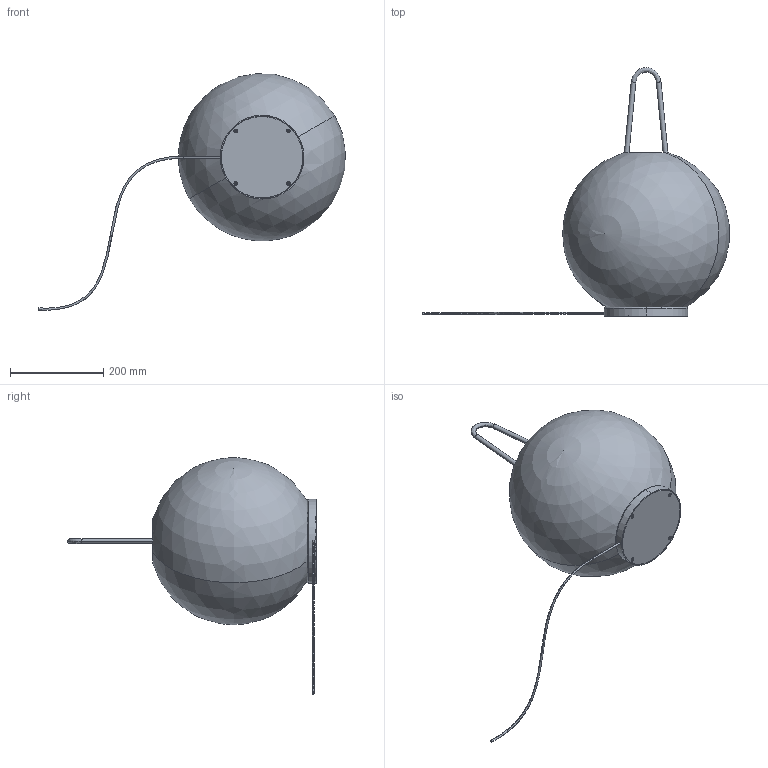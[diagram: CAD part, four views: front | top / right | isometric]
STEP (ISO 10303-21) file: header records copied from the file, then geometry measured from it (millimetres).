
FILE_DESCRIPTION (( 'STEP AP214' ), '1' );
FILE_NAME ('SKIPPER T3- DISEGNO D''INSIEME.STEP', '2022-06-10T14:35:48', ( '' ), ( '' ), 'SwSTEP 2.0', 'SolidWorks 2021', '' );
FILE_SCHEMA (( 'AUTOMOTIVE_DESIGN' ));
Length unit declared in the file: millimetre
Products named in the file (14): BASE SUPERIORE SKIPPER T3; VITE TPSCE M4X8; DIFFUSORE SKIPPER S3 ø360 ; cavo ; VITE TCB+ M3X6; SKIPPER T3- DISEGNO D''INSIEME; BASE INFERIORE SKIPPER T3; VITE TBCE M4X8; CL044; VITE TPS- M3X12; RONDELLA PA 66-RV  ø7x1 NEUTRO; SCHERMO S3; MANIGLIA TAVOLO SKIPPER T3; DISTANZIATORE PA 66-RV  ø6x7 NEUTRO
Assembly tree (21 placements, depth 2):
  SKIPPER T3- DISEGNO D''INSIEME
    BASE SUPERIORE SKIPPER T3
    BASE INFERIORE SKIPPER T3
    MANIGLIA TAVOLO SKIPPER T3
    DIFFUSORE SKIPPER S3 ø360 
    CL044
    RONDELLA PA 66-RV  ø7x1 NEUTRO  x2
    VITE TCB+ M3X6  x2
    VITE TBCE M4X8  x2
    SCHERMO S3
    VITE TPS- M3X12  x2
    DISTANZIATORE PA 66-RV  ø6x7 NEUTRO  x2
    VITE TPSCE M4X8  x4
    cavo 
Bounding box: 658.53 x 534.99 x 508.19 mm (x, y, z)
Volume: 1380873.5 mm3; surface area: 963355.8 mm2
Topology: 21 solids, 21 shells, 598 faces, 1375 edges, 862 vertices
Faces by surface type: plane 315, cylinder 161, cone 74, torus 32, bspline 12, sphere 4
Entity records: 15044 total; most frequent: CARTESIAN_POINT 4056, DIRECTION 2139, ORIENTED_EDGE 2022, EDGE_CURVE 1011, AXIS2_PLACEMENT_3D 732, VECTOR 675, LINE 675, VERTEX_POINT 648
